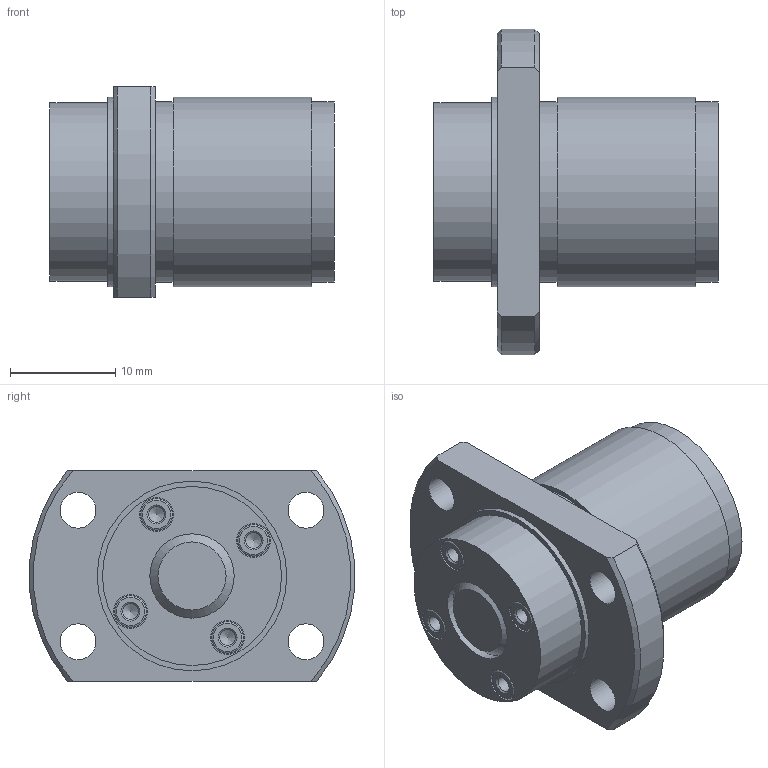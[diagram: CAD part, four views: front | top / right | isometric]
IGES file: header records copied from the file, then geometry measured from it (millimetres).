
Start section: Data from Parasolid IGES Translator 26.0.171, Copyright(c) 2006 Siemens PLM Software. All Rights Reserved.
Global section: file name: WGF0812-3G1+27LC3_0_13_0_0.igs; native system: By Siemens PLM Incorporated; preprocessor: XPlus GENERIC/IGES 26.0.171; author: Noname; organization: Noname; date: 20250116.062406; units: millimetre
Bounding box: 27 x 30.91 x 20 mm (x, y, z)
Surface area: 4421.3 mm2 (no closed solid volume)
Topology: 0 solids, 0 shells, 62 faces, 254 edges, 195 vertices
Faces by surface type: revolution 43, extrusion 19
